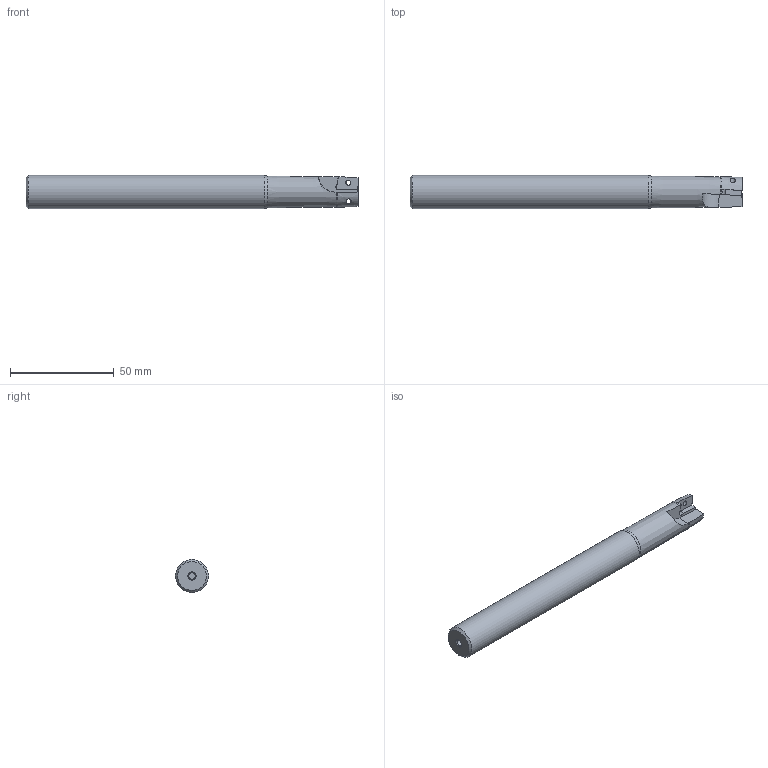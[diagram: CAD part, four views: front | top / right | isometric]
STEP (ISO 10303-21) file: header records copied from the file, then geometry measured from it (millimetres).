
FILE_DESCRIPTION(/* description */ (''),/* implementation_level */ '2;1');
FILE_NAME(/* name */ 'Z:\Проектный отдел\Влад\Фрезы исправления\EAP300R-C16-16-160-2T.stp',/* time_stamp */ '2023-06-02T16:19:18+03:00',/* author */ ('инженер'),/* organization */ (''),/* preprocessor_version */ 'ST-DEVELOPER v18',/* originating_system */ 'Autodesk Inventor 2020',/* authorisation */ '');
FILE_SCHEMA (('AUTOMOTIVE_DESIGN { 1 0 10303 214 3 1 1 }'));
Length unit declared in the file: millimetre
Products named in the file (1): EAP300R-C10-10-120L-1T
Bounding box: 160 x 16 x 16 mm (x, y, z)
Volume: 29515.4 mm3; surface area: 8415.8 mm2
Topology: 1 solids, 1 shells, 37 faces, 108 edges, 75 vertices
Faces by surface type: plane 16, cylinder 9, torus 7, cone 5
Full cylindrical faces by diameter (mm): 1.5 x1, 2.5 x2, 3 x1, 16 x1
Entity records: 1492 total; most frequent: CARTESIAN_POINT 381, DIRECTION 226, ORIENTED_EDGE 216, EDGE_CURVE 108, AXIS2_PLACEMENT_3D 93, VERTEX_POINT 75, CIRCLE 48, EDGE_LOOP 43
